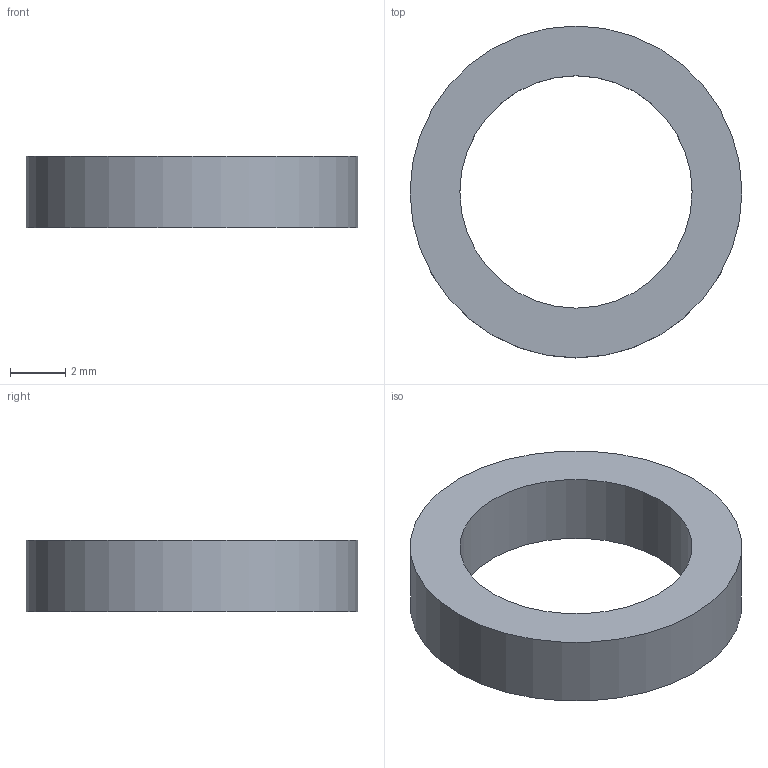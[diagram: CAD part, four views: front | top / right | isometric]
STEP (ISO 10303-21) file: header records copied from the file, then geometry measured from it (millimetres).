
FILE_DESCRIPTION(('Open CASCADE Model'),'2;1');
FILE_NAME('BM_center_bush','2026-11-05T16:12:21',('Author'),( 'Open CASCADE'),'Open CASCADE STEP processor 7.9','build123d', 'Unknown');
FILE_SCHEMA(('AUTOMOTIVE_DESIGN { 1 0 10303 214 1 1 1 1 }'));
Length unit declared in the file: millimetre
Products named in the file (2): BM_center_bush
Assembly tree (1 placements, depth 2):
  BM_center_bush
    BM_center_bush
Bounding box: 12 x 12 x 2.6 mm (x, y, z)
Volume: 150 mm3; surface area: 282 mm2
Topology: 1 solids, 1 shells, 4 faces, 6 edges, 4 vertices
Faces by surface type: cylinder 2, plane 2
Full cylindrical faces by diameter (mm): 8.4 x1, 12 x1
Entity records: 228 total; most frequent: DIRECTION 34, CARTESIAN_POINT 28, ORIENTED_EDGE 12, PCURVE 12, DEFINITIONAL_REPRESENTATION 12, AXIS2_PLACEMENT_3D 10, LINE 10, VECTOR 10
